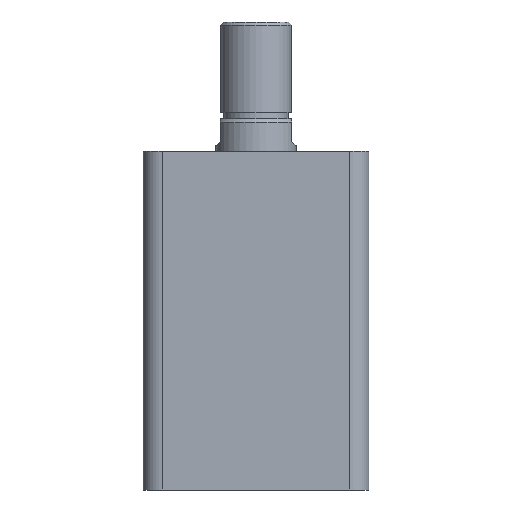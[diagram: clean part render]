
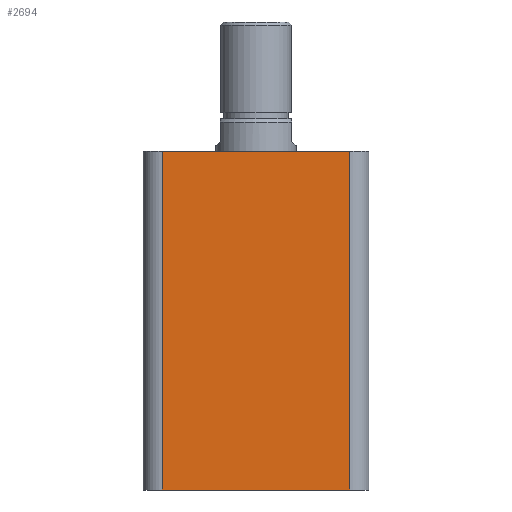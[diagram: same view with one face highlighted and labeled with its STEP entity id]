
A CAD part, front view. The second image highlights one B-rep face of the part: STEP entity #2694.
In plain terms, the highlighted planar face has unit normal (0, -1, 0).
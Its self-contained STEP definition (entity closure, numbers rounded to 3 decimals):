
#142 = EDGE_LOOP ( 'NONE', ( #278, #276, #277, #275 ) ) ;
#275 = ORIENTED_EDGE ( 'NONE', *, *, #1802, .T. ) ;
#276 = ORIENTED_EDGE ( 'NONE', *, *, #1766, .T. ) ;
#277 = ORIENTED_EDGE ( 'NONE', *, *, #1801, .T. ) ;
#278 = ORIENTED_EDGE ( 'NONE', *, *, #1759, .F. ) ;
#318 = VERTEX_POINT ( 'NONE', #1855 ) ;
#372 = VERTEX_POINT ( 'NONE', #2112 ) ;
#390 = VERTEX_POINT ( 'NONE', #2085 ) ;
#408 = VERTEX_POINT ( 'NONE', #2064 ) ;
#586 = DIRECTION ( 'NONE',  ( 0., 0., 1. ) ) ;
#592 = CARTESIAN_POINT ( 'NONE',  ( 29., -35., 105. ) ) ;
#612 = CARTESIAN_POINT ( 'NONE',  ( -35., -35., 0. ) ) ;
#633 = DIRECTION ( 'NONE',  ( 1., 0., 0. ) ) ;
#928 = AXIS2_PLACEMENT_3D ( 'NONE', #2461, #2457, #2456 ) ;
#1226 = VECTOR ( 'NONE', #1857, 1000. ) ;
#1233 = LINE ( 'NONE', #1864, #1226 ) ;
#1245 = VECTOR ( 'NONE', #1883, 1000. ) ;
#1251 = LINE ( 'NONE', #1886, #1245 ) ;
#1759 = EDGE_CURVE ( 'NONE', #390, #372, #1251, .T. ) ;
#1766 = EDGE_CURVE ( 'NONE', #390, #408, #1233, .T. ) ;
#1801 = EDGE_CURVE ( 'NONE', #408, #318, #2346, .T. ) ;
#1802 = EDGE_CURVE ( 'NONE', #318, #372, #2228, .T. ) ;
#1855 = CARTESIAN_POINT ( 'NONE',  ( 29., -35., 0. ) ) ;
#1857 = DIRECTION ( 'NONE',  ( 0., 0., -1. ) ) ;
#1864 = CARTESIAN_POINT ( 'NONE',  ( -29., -35., 105. ) ) ;
#1883 = DIRECTION ( 'NONE',  ( 1., 0., 0. ) ) ;
#1886 = CARTESIAN_POINT ( 'NONE',  ( -35., -35., 105. ) ) ;
#2064 = CARTESIAN_POINT ( 'NONE',  ( -29., -35., 0. ) ) ;
#2085 = CARTESIAN_POINT ( 'NONE',  ( -29., -35., 105. ) ) ;
#2112 = CARTESIAN_POINT ( 'NONE',  ( 29., -35., 105. ) ) ;
#2199 = FACE_OUTER_BOUND ( 'NONE', #142, .T. ) ;
#2225 = VECTOR ( 'NONE', #586, 1000. ) ;
#2227 = VECTOR ( 'NONE', #633, 1000. ) ;
#2228 = LINE ( 'NONE', #592, #2225 ) ;
#2346 = LINE ( 'NONE', #612, #2227 ) ;
#2456 = DIRECTION ( 'NONE',  ( 0., 0., 1. ) ) ;
#2457 = DIRECTION ( 'NONE',  ( 0., 1., 0. ) ) ;
#2459 = PLANE ( 'NONE',  #928 ) ;
#2461 = CARTESIAN_POINT ( 'NONE',  ( -35., -35., 105. ) ) ;
#2694 = ADVANCED_FACE ( 'NONE', ( #2199 ), #2459, .F. ) ;
